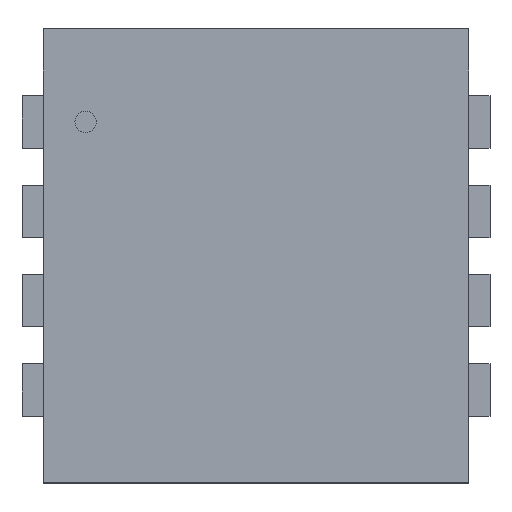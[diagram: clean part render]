
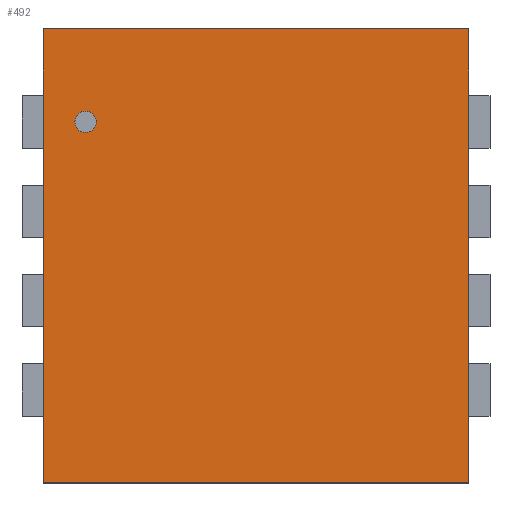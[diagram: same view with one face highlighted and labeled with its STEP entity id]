
A CAD part, top view. The second image highlights one B-rep face of the part: STEP entity #492.
In plain terms, the highlighted planar face has unit normal (0, 0, 1).
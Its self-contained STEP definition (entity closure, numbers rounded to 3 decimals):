
#268=CARTESIAN_POINT('',(1.549,-1.651,0.889));
#267=VERTEX_POINT('',#268);
#278=CARTESIAN_POINT('',(-1.549,-1.651,0.889));
#277=VERTEX_POINT('',#278);
#276=EDGE_CURVE('',#277,#267,#281,.T.);
#281=LINE('',#278,#283);
#283=VECTOR('',#284,3.099);
#284=DIRECTION('',(1.0,0.0,0.0));
#317=CARTESIAN_POINT('',(1.549,1.651,0.889));
#316=VERTEX_POINT('',#317);
#325=EDGE_CURVE('',#267,#316,#330,.T.);
#330=LINE('',#268,#332);
#332=VECTOR('',#333,3.302);
#333=DIRECTION('',(0.0,1.0,0.0));
#366=CARTESIAN_POINT('',(-1.549,1.651,0.889));
#365=VERTEX_POINT('',#366);
#374=EDGE_CURVE('',#316,#365,#379,.T.);
#379=LINE('',#317,#381);
#381=VECTOR('',#382,3.099);
#382=DIRECTION('',(-1.0,0.0,0.0));
#423=EDGE_CURVE('',#365,#277,#428,.T.);
#428=LINE('',#366,#430);
#430=VECTOR('',#431,3.302);
#431=DIRECTION('',(0.0,-1.0,0.0));
#492=ADVANCED_FACE('',(#498),#493,.T.);
#493=PLANE('',#494);
#494=AXIS2_PLACEMENT_3D('',#495,#496,#497);
#495=CARTESIAN_POINT('',(-1.549,-1.651,0.889));
#496=DIRECTION('',(0.0,0.0,1.0));
#497=DIRECTION('',(0.,1.,0.));
#498=FACE_OUTER_BOUND('',#499,.T.);
#499=EDGE_LOOP('',(#500,#510,#520,#530));
#500=ORIENTED_EDGE('',*,*,#276,.T.);
#510=ORIENTED_EDGE('',*,*,#325,.T.);
#520=ORIENTED_EDGE('',*,*,#374,.T.);
#530=ORIENTED_EDGE('',*,*,#423,.T.);
